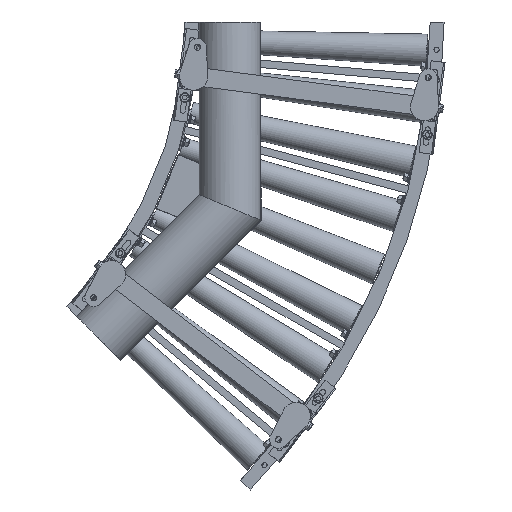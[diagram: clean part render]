
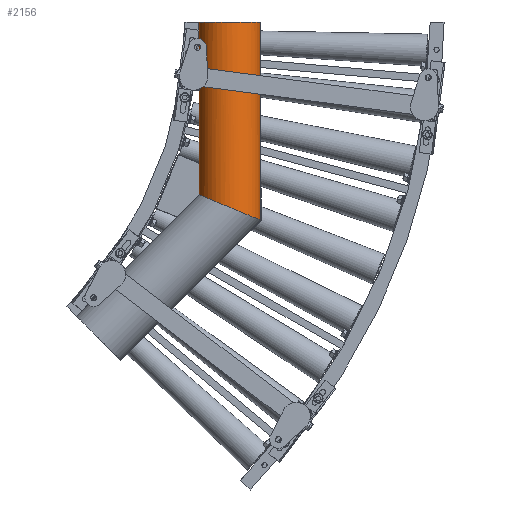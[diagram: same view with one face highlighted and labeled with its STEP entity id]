
A CAD part, front view. The second image highlights one B-rep face of the part: STEP entity #2156.
In plain terms, the highlighted cylindrical face has radius 67.024 mm (diameter 134.048 mm), a partial arc.
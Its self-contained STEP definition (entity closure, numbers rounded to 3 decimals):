
#2156=ADVANCED_FACE('',(#13440),#13439,.T.);
#13439=CYLINDRICAL_SURFACE('',#30994,67.024);
#13440=FACE_OUTER_BOUND('',#30995,.T.);
#30991=CARTESIAN_POINT('',(967.,-156.676,0.));
#30992=DIRECTION('',(0.,0.,1.));
#30993=DIRECTION('',(1.,0.,0.));
#30994=AXIS2_PLACEMENT_3D('',#30991,#30992,#30993);
#30995=EDGE_LOOP('',(#41848,#41849,#41850,#41851));
#41848=ORIENTED_EDGE('',*,*,#50197,.F.);
#41849=ORIENTED_EDGE('',*,*,#50204,.F.);
#41850=ORIENTED_EDGE('',*,*,#50208,.T.);
#41851=ORIENTED_EDGE('',*,*,#50198,.F.);
#50197=EDGE_CURVE('',#68202,#68175,#68209,.T.);
#50198=EDGE_CURVE('',#68175,#68215,#68216,.T.);
#50204=EDGE_CURVE('',#68255,#68202,#68256,.T.);
#50208=EDGE_CURVE('',#68255,#68215,#68281,.T.);
#68175=VERTEX_POINT('',#98966);
#68202=VERTEX_POINT('',#98981);
#68209=LINE('',#98985,#98986);
#68215=VERTEX_POINT('',#98988);
#68216=(BOUNDED_CURVE() B_SPLINE_CURVE(2,(#98989,#98990,#98991,#98992,#98993),.UNSPECIFIED.,.F.,.F.) B_SPLINE_CURVE_WITH_KNOTS((3,2,3),(0.147,1.571,2.994),.UNSPECIFIED.) CURVE() GEOMETRIC_REPRESENTATION_ITEM() RATIONAL_B_SPLINE_CURVE((1.,0.757,1.,0.757,1.)) REPRESENTATION_ITEM('') );
#68255=VERTEX_POINT('',#99013);
#68256=CIRCLE('',#99017,67.024);
#68281=LINE('',#99028,#99029);
#98966=CARTESIAN_POINT('',(1033.3,-166.5,-428.007));
#98981=CARTESIAN_POINT('',(1033.3,-166.5,0.));
#98985=CARTESIAN_POINT('',(1033.3,-166.5,0.));
#98986=VECTOR('',#98987,428.007);
#98987=DIRECTION('',(0.,0.,-1.));
#98988=CARTESIAN_POINT('',(900.7,-166.5,-373.082));
#98989=CARTESIAN_POINT('',(1033.3,-166.5,-428.007));
#98990=CARTESIAN_POINT('',(1024.825,-223.7,-424.496));
#98991=CARTESIAN_POINT('',(967.,-223.7,-400.545));
#98992=CARTESIAN_POINT('',(909.175,-223.7,-376.593));
#98993=CARTESIAN_POINT('',(900.7,-166.5,-373.082));
#99013=CARTESIAN_POINT('',(900.7,-166.5,0.));
#99014=CARTESIAN_POINT('',(967.,-156.676,0.));
#99015=DIRECTION('',(0.,0.,1.));
#99016=DIRECTION('',(-1.,0.,0.));
#99017=AXIS2_PLACEMENT_3D('',#99014,#99015,#99016);
#99028=CARTESIAN_POINT('',(900.7,-166.5,0.));
#99029=VECTOR('',#99030,373.082);
#99030=DIRECTION('',(0.,0.,-1.));
